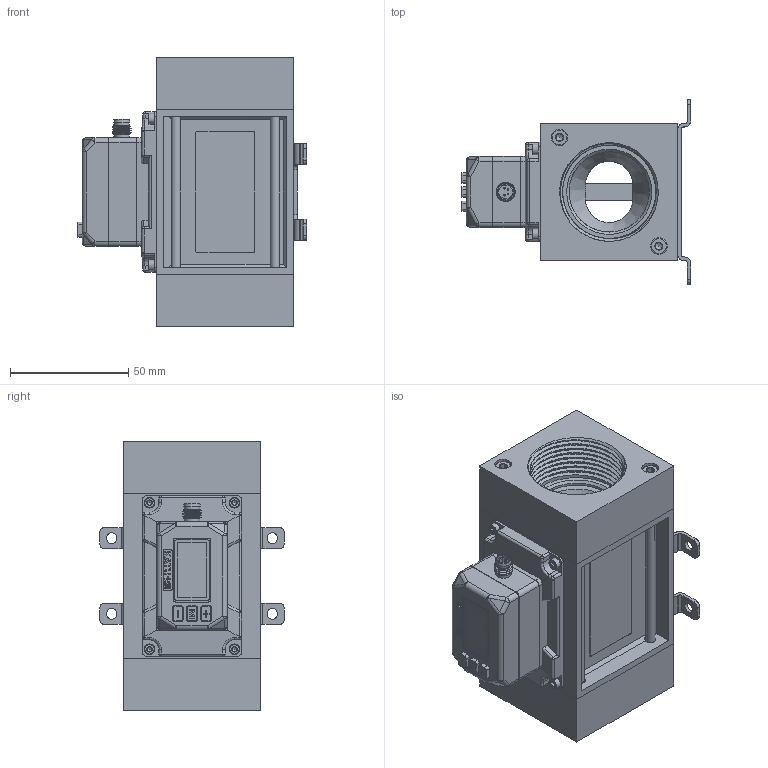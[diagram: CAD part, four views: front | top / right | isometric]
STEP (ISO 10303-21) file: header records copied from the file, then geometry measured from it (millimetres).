
FILE_DESCRIPTION( (''), '2;1');
FILE_NAME( 'QEKJ_250L_R1_M12_LED-display_bracket_1.step', '2023-06-26T20:09:32+08:00', (''), (''), '', '', '');
FILE_SCHEMA (('AUTOMOTIVE_DESIGN { 1 0 10303 214 3 1 1 1 }'));
Length unit declared in the file: millimetre
Products named in the file (1): QEKJ 250L_R1_M12_LED-display_bracket_1
Bounding box: 97.1 x 78 x 114 mm (x, y, z)
Volume: 226276.3 mm3; surface area: 115266.5 mm2
Topology: 19 solids, 20 shells, 1554 faces, 3875 edges, 2442 vertices
Faces by surface type: plane 927, cylinder 389, cone 126, torus 56, sphere 28, extrusion 16, bspline 12
Full cylindrical faces by diameter (mm): 0.6 x4, 1.6 x4, 2 x3, 2.05 x8, 2.38 x4, 2.8 x4, 3 x4, 3.3 x4, 3.838 x8, 4 x1, 4.5 x20, 5 x8, 5.8 x1, 6.5 x10, 7 x16, 34 x2, 40 x2
Entity records: 51263 total; most frequent: CARTESIAN_POINT 14316, DIRECTION 7340, ORIENTED_EDGE 7186, EDGE_CURVE 3593, AXIS2_PLACEMENT_3D 2525, VERTEX_POINT 2387, VECTOR 2290, LINE 2274
